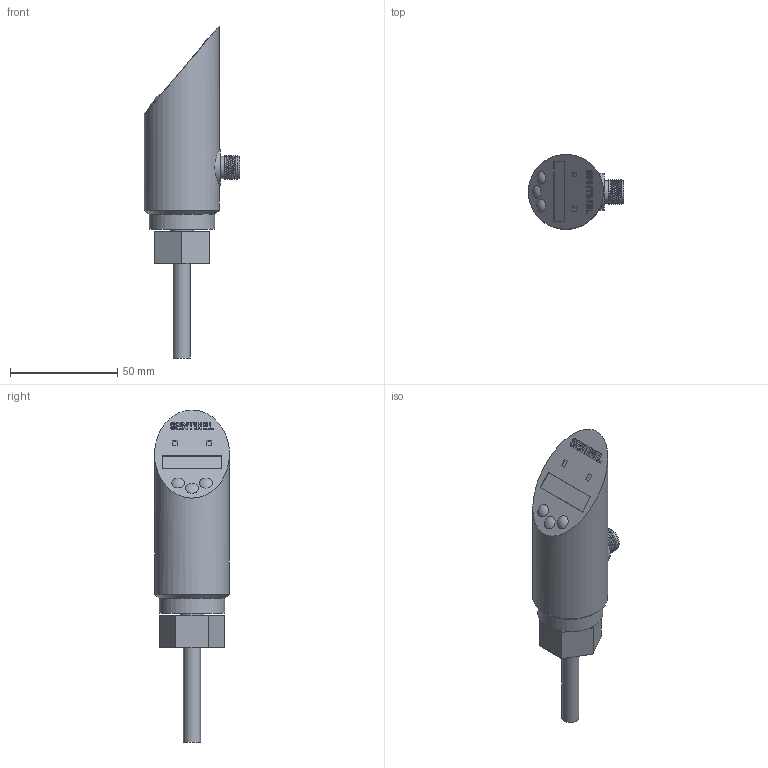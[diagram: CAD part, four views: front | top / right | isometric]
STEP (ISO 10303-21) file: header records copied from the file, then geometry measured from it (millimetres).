
FILE_DESCRIPTION(/* description */ (''),/* implementation_level */ '2;1');
FILE_NAME(/* name */ 'PLSN-18MN-AN6D-SC.stp',/* time_stamp */ '2022-06-17T15:30:39+08:00',/* author */ (''),/* organization */ (''),/* preprocessor_version */ 'ST-DEVELOPER v16',/* originating_system */ 'SIEMENS PLM Software NX 10.0',/* authorisation */ '');
FILE_SCHEMA (('CONFIG_CONTROL_DESIGN'));
Length unit declared in the file: millimetre
Products named in the file (1): PLSN-18MN
Bounding box: 44.5 x 35 x 155 mm (x, y, z)
Volume: 76842.2 mm3; surface area: 16830.6 mm2
Topology: 1 solids, 1 shells, 156 faces, 381 edges, 255 vertices
Faces by surface type: plane 113, cylinder 18, extrusion 16, bspline 5, sphere 3, cone 1
Full cylindrical faces by diameter (mm): 0.75 x5, 8 x1, 9 x1, 10 x1, 10.5 x2, 11 x1, 17 x1, 30.558 x1, 35 x1
Entity records: 7695 total; most frequent: CARTESIAN_POINT 4353, ORIENTED_EDGE 722, DIRECTION 501, EDGE_CURVE 361, VERTEX_POINT 251, EDGE_LOOP 200, B_SPLINE_CURVE_WITH_KNOTS 199, AXIS2_PLACEMENT_3D 171
